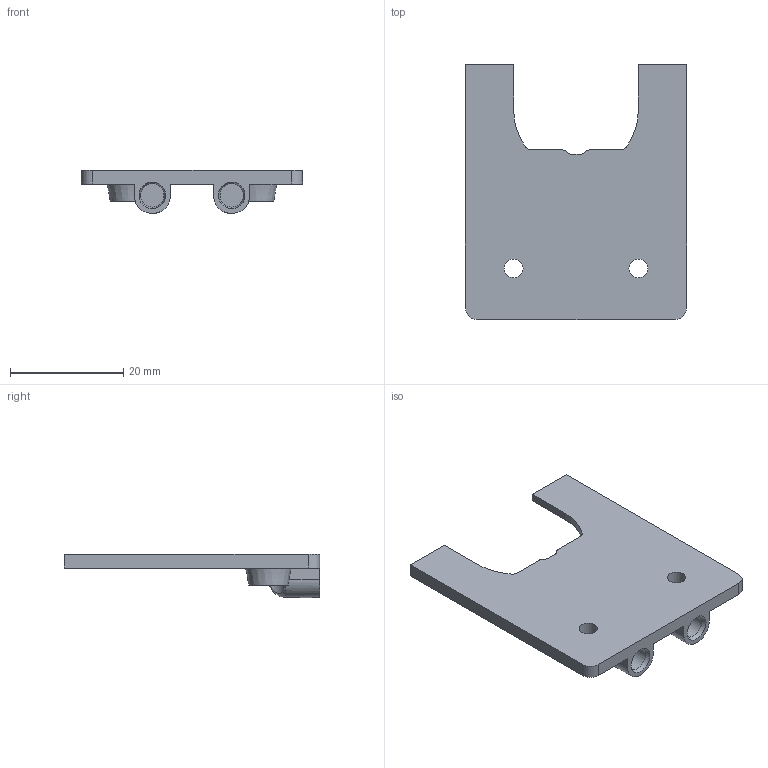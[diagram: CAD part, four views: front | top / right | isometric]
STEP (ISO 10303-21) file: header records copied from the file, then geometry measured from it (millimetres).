
FILE_DESCRIPTION(/* description */ (''),/* implementation_level */ '2;1');
FILE_NAME(/* name */ 'HMG7-Creality-Stock-MK8-MS-Skirt.step',/* time_stamp */ '2022-11-01T21:22:38-07:00',/* author */ (''),/* organization */ (''),/* preprocessor_version */ 'ST-DEVELOPER v19.2',/* originating_system */ 'Autodesk Translation Framework v11.17.0.187',/* authorisation */ '');
FILE_SCHEMA (('AUTOMOTIVE_DESIGN { 1 0 10303 214 3 1 1 }'));
Length unit declared in the file: millimetre
Products named in the file (3): GEN_7_1.5; Mk8 Hotend; MK8_Hotend_Skirt
Assembly tree (2 placements, depth 3):
  GEN_7_1.5
    Mk8 Hotend
      MK8_Hotend_Skirt
Bounding box: 39 x 45.03 x 7.6 mm (x, y, z)
Volume: 3771.8 mm3; surface area: 3846.3 mm2
Topology: 1 solids, 1 shells, 65 faces, 167 edges, 104 vertices
Faces by surface type: plane 29, cylinder 22, cone 12, bspline 2
Full cylindrical faces by diameter (mm): 3.3 x2, 4.15 x2, 6 x2
Entity records: 2122 total; most frequent: CARTESIAN_POINT 451, DIRECTION 345, ORIENTED_EDGE 330, EDGE_CURVE 165, AXIS2_PLACEMENT_3D 126, VERTEX_POINT 104, LINE 93, VECTOR 93
